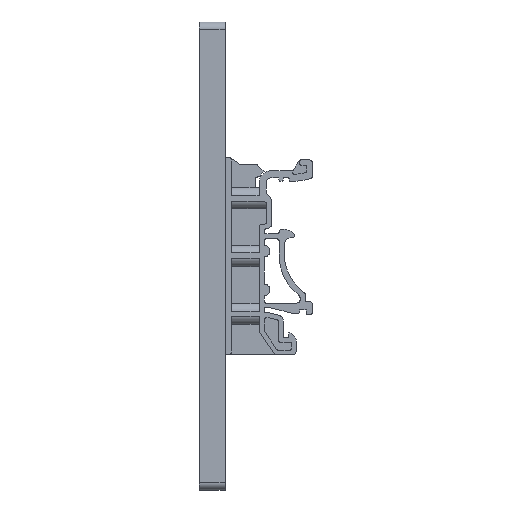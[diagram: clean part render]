
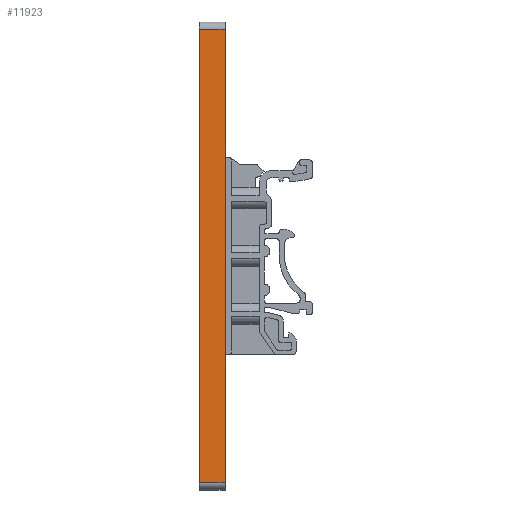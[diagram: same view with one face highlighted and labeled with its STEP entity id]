
A CAD part, left-side view. The second image highlights one B-rep face of the part: STEP entity #11923.
In plain terms, the highlighted planar face has unit normal (-1, 0, 0).
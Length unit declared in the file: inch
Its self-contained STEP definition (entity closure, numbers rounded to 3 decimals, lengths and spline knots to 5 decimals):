
#609 = DIRECTION ( 'NONE',  ( 0., -1., 0. ) ) ;
#1438 = VERTEX_POINT ( 'NONE', #7917 ) ;
#1463 = DIRECTION ( 'NONE',  ( 0., 0., -1. ) ) ;
#1565 = CARTESIAN_POINT ( 'NONE',  ( 0., 0., 0. ) ) ;
#1932 = VECTOR ( 'NONE', #2600, 39.37008 ) ;
#1972 = CARTESIAN_POINT ( 'NONE',  ( 0., 0.22, 0. ) ) ;
#2592 = LINE ( 'NONE', #3906, #10325 ) ;
#2600 = DIRECTION ( 'NONE',  ( 0., 0., -1. ) ) ;
#3081 = CARTESIAN_POINT ( 'NONE',  ( 0., 0.22, -3.9375 ) ) ;
#3826 = LINE ( 'NONE', #6864, #4998 ) ;
#3906 = CARTESIAN_POINT ( 'NONE',  ( 0., 0.22, -3.9375 ) ) ;
#3937 = CARTESIAN_POINT ( 'NONE',  ( 0., 0., -0.0625 ) ) ;
#4108 = AXIS2_PLACEMENT_3D ( 'NONE', #1972, #12583, #12714 ) ;
#4350 = CARTESIAN_POINT ( 'NONE',  ( 0., 0., -3.9375 ) ) ;
#4784 = LINE ( 'NONE', #1565, #1932 ) ;
#4998 = VECTOR ( 'NONE', #1463, 39.37008 ) ;
#5108 = PLANE ( 'NONE',  #4108 ) ;
#5346 = VERTEX_POINT ( 'NONE', #4350 ) ;
#6235 = ORIENTED_EDGE ( 'NONE', *, *, #11662, .T. ) ;
#6247 = ORIENTED_EDGE ( 'NONE', *, *, #13211, .F. ) ;
#6803 = VERTEX_POINT ( 'NONE', #3081 ) ;
#6864 = CARTESIAN_POINT ( 'NONE',  ( 0., 0.22, 0. ) ) ;
#7370 = FACE_OUTER_BOUND ( 'NONE', #10862, .T. ) ;
#7651 = VECTOR ( 'NONE', #12248, 39.37008 ) ;
#7866 = EDGE_CURVE ( 'NONE', #1438, #11864, #12656, .T. ) ;
#7917 = CARTESIAN_POINT ( 'NONE',  ( 0., 0.22, -0.0625 ) ) ;
#8302 = ORIENTED_EDGE ( 'NONE', *, *, #11174, .T. ) ;
#10325 = VECTOR ( 'NONE', #609, 39.37008 ) ;
#10862 = EDGE_LOOP ( 'NONE', ( #6247, #13747, #6235, #8302 ) ) ;
#11174 = EDGE_CURVE ( 'NONE', #6803, #5346, #2592, .T. ) ;
#11662 = EDGE_CURVE ( 'NONE', #1438, #6803, #3826, .T. ) ;
#11864 = VERTEX_POINT ( 'NONE', #3937 ) ;
#11923 = ADVANCED_FACE ( 'NONE', ( #7370 ), #5108, .T. ) ;
#12248 = DIRECTION ( 'NONE',  ( 0., -1., 0. ) ) ;
#12583 = DIRECTION ( 'NONE',  ( -1., 0., 0. ) ) ;
#12656 = LINE ( 'NONE', #13503, #7651 ) ;
#12714 = DIRECTION ( 'NONE',  ( 0., 0., 1. ) ) ;
#13211 = EDGE_CURVE ( 'NONE', #11864, #5346, #4784, .T. ) ;
#13503 = CARTESIAN_POINT ( 'NONE',  ( 0., 0.22, -0.0625 ) ) ;
#13747 = ORIENTED_EDGE ( 'NONE', *, *, #7866, .F. ) ;
